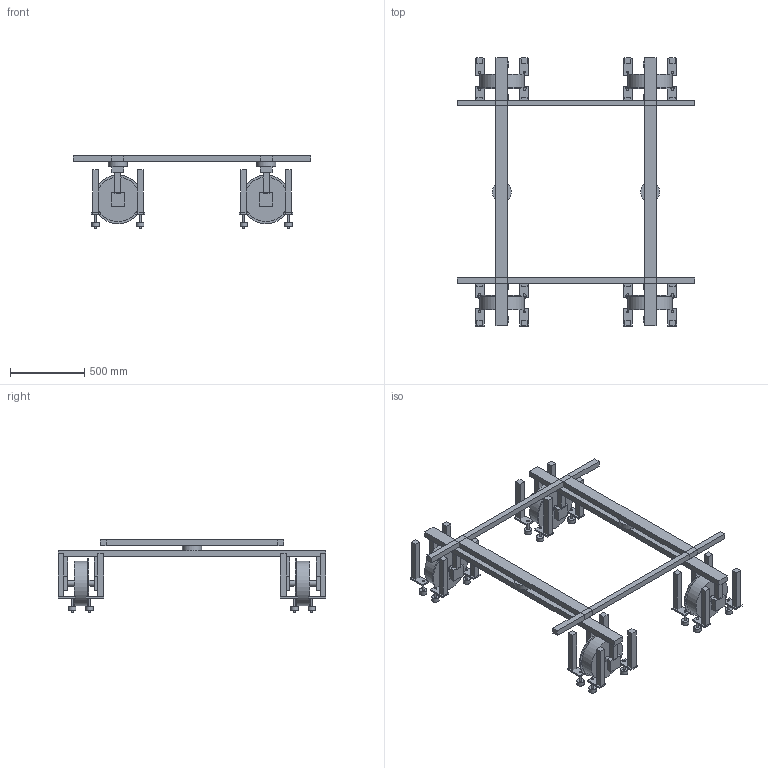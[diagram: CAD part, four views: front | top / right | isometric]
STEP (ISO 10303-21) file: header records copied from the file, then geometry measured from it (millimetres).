
FILE_DESCRIPTION(('Open CASCADE Model'),'2;1');
FILE_NAME('Open CASCADE Shape Model','2026-11-17T01:57:00',('Author'),( 'Open CASCADE'),'Open CASCADE STEP processor 7.8','Open CASCADE 7.8' ,'Unknown');
FILE_SCHEMA(('AUTOMOTIVE_DESIGN { 1 0 10303 214 1 1 1 1 }'));
Length unit declared in the file: millimetre
Products named in the file (97): FLANGED_WHEELS_WITH_16_BILATERAL_GUIDES_CONCEPT; BOGIE_CROSS_-500; YAW_PIVOT_ENVELOPE_-500; RAILWHEEL_-500_-1_PROFILE_UNCONFIRMED; STUB_AXLE_-500_-1; BEARING_ENVELOPE_-500_-1_-110; WHEEL_SUPPORT_-500_-1_-110; BEARING_ENVELOPE_-500_-1_110; WHEEL_SUPPORT_-500_-1_110; GUIDE_-500_-1_-150_-1; GUIDE_SPINDLE_-500_-1_-150_-1; GUIDE_POST_-500_-1_-150_-1; GUIDE_ARM_-500_-1_-150_-1; GUIDE_-500_-1_-150_1; GUIDE_SPINDLE_-500_-1_-150_1; GUIDE_POST_-500_-1_-150_1; GUIDE_ARM_-500_-1_-150_1; GUIDE_-500_-1_150_-1; GUIDE_SPINDLE_-500_-1_150_-1; GUIDE_POST_-500_-1_150_-1; GUIDE_ARM_-500_-1_150_-1; GUIDE_-500_-1_150_1; GUIDE_SPINDLE_-500_-1_150_1; GUIDE_POST_-500_-1_150_1; GUIDE_ARM_-500_-1_150_1; RAILWHEEL_-500_1_PROFILE_UNCONFIRMED; STUB_AXLE_-500_1; BEARING_ENVELOPE_-500_1_-110; WHEEL_SUPPORT_-500_1_-110; BEARING_ENVELOPE_-500_1_110; WHEEL_SUPPORT_-500_1_110; GUIDE_-500_1_-150_-1; GUIDE_SPINDLE_-500_1_-150_-1; GUIDE_POST_-500_1_-150_-1; GUIDE_ARM_-500_1_-150_-1; GUIDE_-500_1_-150_1; GUIDE_SPINDLE_-500_1_-150_1; GUIDE_POST_-500_1_-150_1; GUIDE_ARM_-500_1_-150_1; GUIDE_-500_1_150_-1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
Assembly tree (96 placements, depth 2):
  FLANGED_WHEELS_WITH_16_BILATERAL_GUIDES_CONCEPT
    BOGIE_CROSS_-500
    YAW_PIVOT_ENVELOPE_-500
    RAILWHEEL_-500_-1_PROFILE_UNCONFIRMED
    STUB_AXLE_-500_-1
    BEARING_ENVELOPE_-500_-1_-110
    WHEEL_SUPPORT_-500_-1_-110
    BEARING_ENVELOPE_-500_-1_110
    WHEEL_SUPPORT_-500_-1_110
    GUIDE_-500_-1_-150_-1
    GUIDE_SPINDLE_-500_-1_-150_-1
    GUIDE_POST_-500_-1_-150_-1
    GUIDE_ARM_-500_-1_-150_-1
    GUIDE_-500_-1_-150_1
    GUIDE_SPINDLE_-500_-1_-150_1
    GUIDE_POST_-500_-1_-150_1
    GUIDE_ARM_-500_-1_-150_1
    GUIDE_-500_-1_150_-1
    GUIDE_SPINDLE_-500_-1_150_-1
    GUIDE_POST_-500_-1_150_-1
    GUIDE_ARM_-500_-1_150_-1
    GUIDE_-500_-1_150_1
    GUIDE_SPINDLE_-500_-1_150_1
    GUIDE_POST_-500_-1_150_1
    GUIDE_ARM_-500_-1_150_1
    RAILWHEEL_-500_1_PROFILE_UNCONFIRMED
    STUB_AXLE_-500_1
    BEARING_ENVELOPE_-500_1_-110
    WHEEL_SUPPORT_-500_1_-110
    BEARING_ENVELOPE_-500_1_110
    WHEEL_SUPPORT_-500_1_110
    GUIDE_-500_1_-150_-1
    GUIDE_SPINDLE_-500_1_-150_-1
    GUIDE_POST_-500_1_-150_-1
    GUIDE_ARM_-500_1_-150_-1
    GUIDE_-500_1_-150_1
    GUIDE_SPINDLE_-500_1_-150_1
    GUIDE_POST_-500_1_-150_1
    GUIDE_ARM_-500_1_-150_1
    GUIDE_-500_1_150_-1
    GUIDE_SPINDLE_-500_1_150_-1
    GUIDE_POST_-500_1_150_-1
    GUIDE_ARM_-500_1_150_-1
    GUIDE_-500_1_150_1
    GUIDE_SPINDLE_-500_1_150_1
    GUIDE_POST_-500_1_150_1
    GUIDE_ARM_-500_1_150_1
    BOGIE_CROSS_500
    YAW_PIVOT_ENVELOPE_500
    RAILWHEEL_500_-1_PROFILE_UNCONFIRMED
    STUB_AXLE_500_-1
    BEARING_ENVELOPE_500_-1_-110
    WHEEL_SUPPORT_500_-1_-110
    BEARING_ENVELOPE_500_-1_110
    WHEEL_SUPPORT_500_-1_110
    GUIDE_500_-1_-150_-1
    GUIDE_SPINDLE_500_-1_-150_-1
    GUIDE_POST_500_-1_-150_-1
    GUIDE_ARM_500_-1_-150_-1
    GUIDE_500_-1_-150_1
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Bounding box: 1600 x 1808 x 490 mm (x, y, z)
Volume: 68485963.8 mm3; surface area: 5105197.5 mm2
Topology: 96 solids, 96 shells, 484 faces, 860 edges, 572 vertices
Faces by surface type: plane 412, cylinder 72
Full cylindrical faces by diameter (mm): 15 x32, 40 x14, 50 x16, 130 x2, 300 x4, 330 x4
Entity records: 25155 total; most frequent: DIRECTION 3878, CARTESIAN_POINT 3737, LINE 2300, VECTOR 2300, ORIENTED_EDGE 1720, PCURVE 1720, DEFINITIONAL_REPRESENTATION 1720, EDGE_CURVE 860
